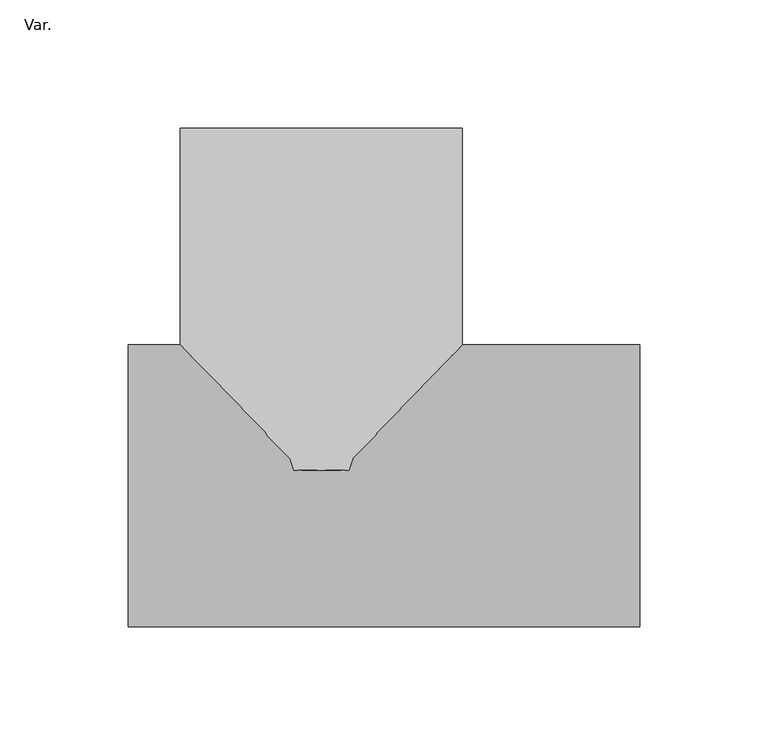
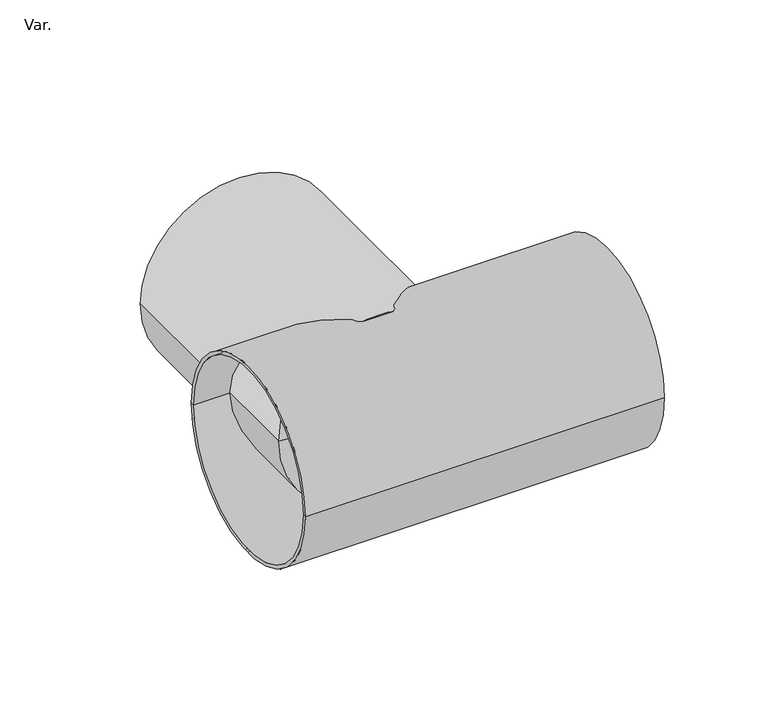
"""IFC4 building model written with IfcOpenShell, lengths in millimetres: pipe fitting geometry, AmancoWavin_Unionesdetubería_SilentiumRamalDobleConVentilación8730110x110 : Var.."""

from ifc_helpers import new_model, si_unit, frame, origin, place, context, project, spatial, polyline, circle_curve, source, transform, mapped, element, save
from ifc_brep_helpers import plane_surface, cylinder_surface, revolved_surface, advanced_brep


def var_9df19455(model_context):
    return source(origin(), model_context, "Body", "AdvancedBrep", [
        advanced_brep(
        [(53.13, 139.5391644, 0.0), (-53.13, 139.5391644, 0.0), (-53.13, 10.9361573, 0.0), (53.13, 10.9361573, 0.0), (2.7109459, 6.548354, 0.0), (-2.7109459, 6.548354, 0.0), (-2.576908, 1.5177907, 0.0), (2.576908, 1.5177907, 0.0), (-55.02, 6.0817393, 0.0), (55.02, 6.0817393, 0.0), (-55.02, 139.5391644, 0.0), (55.02, 139.5391644, 0.0)],
        [
            (0, 1, circle_curve(frame((0.0, 139.5391644, 0.0), z_axis=(0.0, 1.0, 0.0), x_axis=(-1.0, 0.0, 0.0)), 53.13)),
            (1, 2),
            (2, 3, circle_curve(frame((0.0, 10.9361573, 0.0), z_axis=(0.0, -1.0, 0.0), x_axis=(-1.0, 0.0, 0.0)), 53.13)),
            (3, 0),
            (1, 0, circle_curve(frame((0.0, 139.5391644, 0.0), z_axis=(0.0, 1.0, 0.0), x_axis=(-1.0, 0.0, 0.0)), 53.13)),
            (3, 2, circle_curve(frame((0.0, 10.9361573, 0.0), z_axis=(0.0, -1.0, 0.0), x_axis=(-1.0, 0.0, 0.0)), 53.13)),
            (4, 5, circle_curve(frame((0.0, 6.548354, 0.0), z_axis=(0.0, 1.0, 0.0), x_axis=(-1.0, 0.0, 0.0)), 2.7109459)),
            (5, 6),
            (6, 7, circle_curve(frame((0.0, 1.5177907, 0.0), z_axis=(0.0, -1.0, 0.0), x_axis=(-1.0, 0.0, 0.0)), 2.576908)),
            (7, 4),
            (5, 4, circle_curve(frame((0.0, 6.548354, 0.0), z_axis=(0.0, 1.0, 0.0), x_axis=(-1.0, 0.0, 0.0)), 2.7109459)),
            (7, 6, circle_curve(frame((0.0, 1.5177907, 0.0), z_axis=(0.0, -1.0, 0.0), x_axis=(-1.0, 0.0, 0.0)), 2.576908)),
            (6, 8),
            (8, 9, circle_curve(frame((0.0, 6.0817393, 0.0), z_axis=(0.0, -1.0, 0.0), x_axis=(-1.0, 0.0, 0.0)), 55.02)),
            (9, 7),
            (9, 8, circle_curve(frame((0.0, 6.0817393, 0.0), z_axis=(0.0, -1.0, 0.0), x_axis=(-1.0, 0.0, 0.0)), 55.02)),
            (2, 5),
            (4, 3),
            (8, 10),
            (10, 11, circle_curve(frame((0.0, 139.5391644, 0.0), z_axis=(0.0, -1.0, 0.0), x_axis=(-1.0, 0.0, 0.0)), 55.02)),
            (11, 9),
            (11, 10, circle_curve(frame((0.0, 139.5391644, 0.0), z_axis=(0.0, -1.0, 0.0), x_axis=(-1.0, 0.0, 0.0)), 55.02)),
            (10, 1),
            (0, 11),
        ],
        [
            revolved_surface(polyline([(-53.13, 10.9361573, 0.0), (-53.13, 139.5391644, 0.0)]), (0.0, 0.0, 0.0), (0.0, -1.0, 0.0)),
            revolved_surface(polyline([(-2.576908, 1.5177907, 0.0), (-2.7109459, 6.548354, 0.0)]), (0.0, 0.0, 0.0), (0.0, -1.0, 0.0)),
            revolved_surface(polyline([(-55.02, 6.0817393, 0.0), (-2.576908, 1.5177907, 0.0)]), (0.0, 0.0, 0.0), (0.0, -1.0, 0.0)),
            revolved_surface(polyline([(-2.7109459, 6.548354, 0.0), (-53.13, 10.9361573, 0.0)]), (0.0, 0.0, 0.0), (0.0, -1.0, 0.0)),
            cylinder_surface(frame((0.0, 0.0, 0.0), z_axis=(0.0, -1.0, 0.0), x_axis=(-1.0, 0.0, 0.0)), 55.02),
            plane_surface(frame((0.0, 139.5391644, 0.0), z_axis=(0.0, 1.0, 0.0), x_axis=(-1.0, 0.0, 0.0))),
        ],
        [
            (0, [[1, 2, 3, 4]]),
            (0, [[5, -4, 6, -2]]),
            (1, [[7, 8, 9, 10]]),
            (1, [[11, -10, 12, -8]]),
            (2, [[-9, 13, 14, 15]]),
            (2, [[-12, -15, 16, -13]]),
            (3, [[-3, 17, -7, 18]]),
            (3, [[-6, -18, -11, -17]]),
            (4, [[-14, 19, 20, 21]]),
            (4, [[-16, -21, 22, -19]]),
            (5, [[-20, 23, -1, 24]]),
            (5, [[-22, -24, -5, -23]]),
        ],
    ),
        advanced_brep(
        [(-75.41, -55.0218444, 0.0), (-75.41, 55.0218444, 0.0), (124.26, 55.0218444, 0.0), (124.26, -55.0218444, 0.0), (-75.41, -53.1342271, 0.0), (-75.41, 53.1342271, 0.0), (124.26, -53.1342271, 0.0), (124.26, 53.1342271, 0.0)],
        [
            (0, 1, circle_curve(frame((-75.41, 0.0, 0.0), z_axis=(1.0, 0.0, 0.0), x_axis=(0.0, 1.0, 0.0)), 55.0218444)),
            (1, 2),
            (2, 3, circle_curve(frame((124.26, 0.0, 0.0), z_axis=(-1.0, 0.0, 0.0), x_axis=(0.0, 1.0, 0.0)), 55.0218444)),
            (3, 0),
            (1, 0, circle_curve(frame((-75.41, 0.0, 0.0), z_axis=(1.0, 0.0, 0.0), x_axis=(0.0, 1.0, 0.0)), 55.0218444)),
            (3, 2, circle_curve(frame((124.26, 0.0, 0.0), z_axis=(-1.0, 0.0, 0.0), x_axis=(0.0, 1.0, 0.0)), 55.0218444)),
            (4, 5, circle_curve(frame((-75.41, 0.0, 0.0), z_axis=(1.0, 0.0, 0.0), x_axis=(0.0, 1.0, 0.0)), 53.1342271)),
            (5, 1),
            (0, 4),
            (5, 4, circle_curve(frame((-75.41, 0.0, 0.0), z_axis=(1.0, 0.0, 0.0), x_axis=(0.0, 1.0, 0.0)), 53.1342271)),
            (6, 7, circle_curve(frame((124.26, 0.0, 0.0), z_axis=(1.0, 0.0, 0.0), x_axis=(0.0, 1.0, 0.0)), 53.1342271)),
            (7, 5),
            (4, 6),
            (7, 6, circle_curve(frame((124.26, 0.0, 0.0), z_axis=(1.0, 0.0, 0.0), x_axis=(0.0, 1.0, 0.0)), 53.1342271)),
            (2, 7),
            (6, 3),
        ],
        [
            cylinder_surface(frame((-150.41, 0.0, 0.0), z_axis=(-1.0, 0.0, 0.0), x_axis=(0.0, 1.0, 0.0)), 55.0218444),
            plane_surface(frame((-75.41, 0.0, 0.0), z_axis=(-1.0, 0.0, 0.0), x_axis=(0.0, 1.0, 0.0))),
            revolved_surface(polyline([(-75.41, 53.1342271, 0.0), (124.26000000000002, 53.1342271, 0.0)]), (-150.41, 0.0, 0.0), (-1.0, 0.0, 0.0)),
            plane_surface(frame((124.26, 0.0, 0.0), z_axis=(1.0, 0.0, 0.0), x_axis=(0.0, 1.0, 0.0))),
        ],
        [
            (0, [[1, 2, 3, 4]]),
            (0, [[5, -4, 6, -2]]),
            (1, [[7, 8, -1, 9]]),
            (1, [[10, -9, -5, -8]]),
            (2, [[11, 12, -7, 13]]),
            (2, [[14, -13, -10, -12]]),
            (3, [[-3, 15, -11, 16]]),
            (3, [[-6, -16, -14, -15]]),
        ],
    ),
    ])


if __name__ == "__main__":
    model = new_model("IFC4")
    model_context = context("Model", 3, world=origin())
    ifc_project = project(units=[si_unit("LENGTHUNIT", "METRE", prefix="MILLI")], contexts=[model_context])
    site = spatial("IfcSite", under=ifc_project)
    building = spatial("IfcBuilding", under=site)
    placement = place(None, origin())
    var_shape = var_9df19455(model_context)
    element("IfcPipeFitting", 1, ObjectType="AmancoWavin_Unionesdetubería_SilentiumRamalDobleConVentilación8730110x110 : Var.", at=placement, inside=building, context=model_context, shape_type="MappedRepresentation", body=[
        mapped(var_shape, transform((0.0, 0.0, 0.0), x_axis=(1.0, 0.0, 0.0), y_axis=(0.0, 1.0, 0.0), z_axis=(0.0, 0.0, 1.0))),
    ])
    save(model, "model.ifc")
